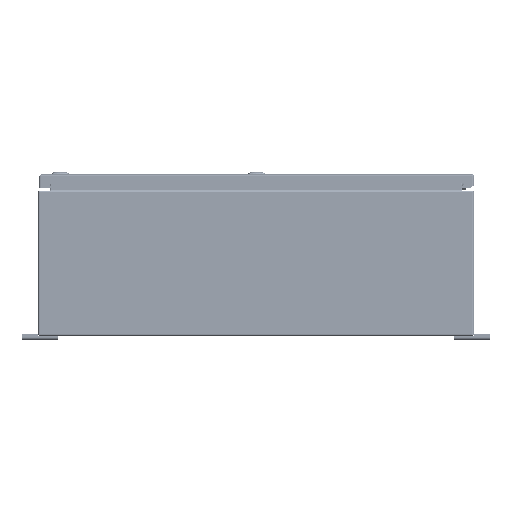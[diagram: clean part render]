
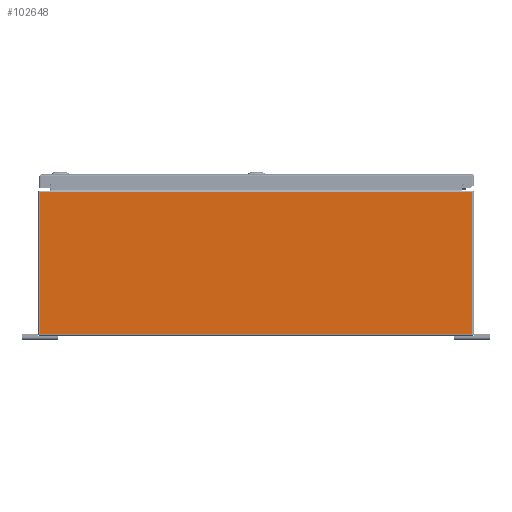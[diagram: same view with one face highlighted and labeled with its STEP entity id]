
A CAD part, left-side view. The second image highlights one B-rep face of the part: STEP entity #102648.
In plain terms, the highlighted planar face has unit normal (-1, 0, 0).
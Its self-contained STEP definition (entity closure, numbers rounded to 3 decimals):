
#6217=PLANE('',#109910);
#8794=LINE('',#145218,#16931);
#8795=LINE('',#145222,#16932);
#8796=LINE('',#145224,#16933);
#8797=LINE('',#145226,#16934);
#8798=LINE('',#145228,#16935);
#8799=LINE('',#145229,#16936);
#16931=VECTOR('',#119070,0.394);
#16932=VECTOR('',#119075,0.394);
#16933=VECTOR('',#119076,0.394);
#16934=VECTOR('',#119077,0.394);
#16935=VECTOR('',#119078,0.394);
#16936=VECTOR('',#119079,0.394);
#26728=FACE_OUTER_BOUND('',#32773,.T.);
#32773=EDGE_LOOP('',(#69654,#69655,#69656,#69657,#69658,#69659));
#43325=VERTEX_POINT('',#145200);
#43332=VERTEX_POINT('',#145217);
#43333=VERTEX_POINT('',#145221);
#43334=VERTEX_POINT('',#145223);
#43335=VERTEX_POINT('',#145225);
#43336=VERTEX_POINT('',#145227);
#53615=EDGE_CURVE('',#43325,#43332,#8794,.T.);
#53617=EDGE_CURVE('',#43333,#43325,#8795,.T.);
#53618=EDGE_CURVE('',#43333,#43334,#8796,.T.);
#53619=EDGE_CURVE('',#43335,#43334,#8797,.T.);
#53620=EDGE_CURVE('',#43336,#43335,#8798,.T.);
#53621=EDGE_CURVE('',#43336,#43332,#8799,.T.);
#69654=ORIENTED_EDGE('',*,*,#53617,.F.);
#69655=ORIENTED_EDGE('',*,*,#53618,.T.);
#69656=ORIENTED_EDGE('',*,*,#53619,.F.);
#69657=ORIENTED_EDGE('',*,*,#53620,.F.);
#69658=ORIENTED_EDGE('',*,*,#53621,.T.);
#69659=ORIENTED_EDGE('',*,*,#53615,.F.);
#102648=ADVANCED_FACE('',(#26728),#6217,.F.);
#109910=AXIS2_PLACEMENT_3D('',#145220,#119073,#119074);
#119070=DIRECTION('',(0.,0.,-1.));
#119073=DIRECTION('center_axis',(1.,0.,0.));
#119074=DIRECTION('ref_axis',(0.,0.,-1.));
#119075=DIRECTION('',(0.,-1.,0.));
#119076=DIRECTION('',(0.,1.,0.));
#119077=DIRECTION('',(0.,-1.,0.));
#119078=DIRECTION('',(0.,0.,1.));
#119079=DIRECTION('',(0.,-1.,0.));
#145200=CARTESIAN_POINT('',(-24.,-14.901,9.901));
#145217=CARTESIAN_POINT('',(-24.,-14.901,0.099));
#145218=CARTESIAN_POINT('',(-24.,-14.901,5.));
#145220=CARTESIAN_POINT('Origin',(-24.,0.,5.));
#145221=CARTESIAN_POINT('',(-24.,-14.126,9.901));
#145222=CARTESIAN_POINT('',(-24.,-7.475,9.901));
#145223=CARTESIAN_POINT('',(-24.,14.126,9.901));
#145224=CARTESIAN_POINT('',(-24.,7.455,9.901));
#145225=CARTESIAN_POINT('',(-24.,14.901,9.901));
#145226=CARTESIAN_POINT('',(-24.,-7.475,9.901));
#145227=CARTESIAN_POINT('',(-24.,14.901,0.099));
#145228=CARTESIAN_POINT('',(-24.,14.901,5.));
#145229=CARTESIAN_POINT('',(-24.,7.5,0.099));
